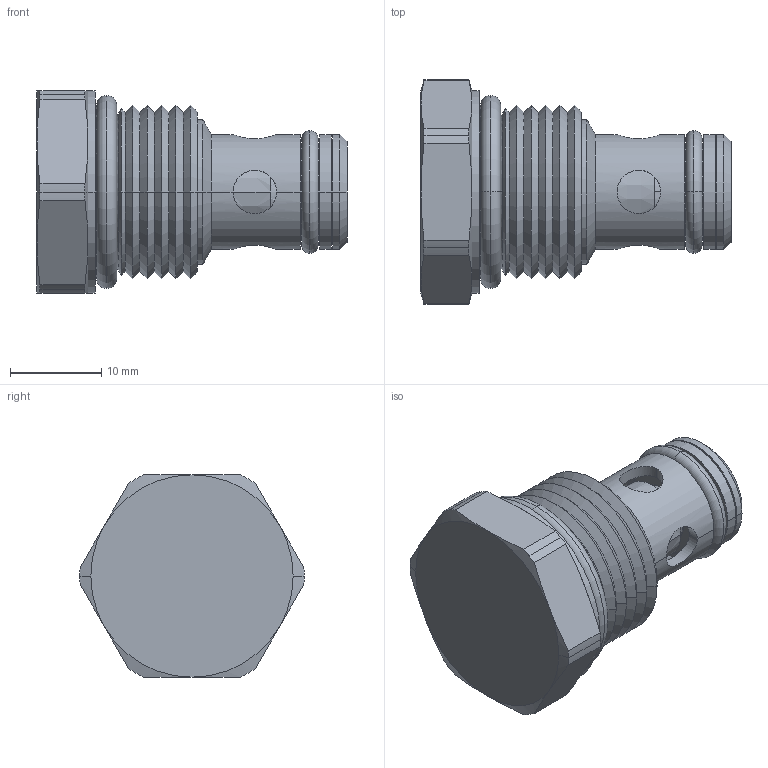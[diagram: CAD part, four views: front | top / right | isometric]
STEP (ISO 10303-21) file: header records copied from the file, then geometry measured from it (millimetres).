
FILE_DESCRIPTION((''),'2;1');
FILE_NAME('U:\Solid model CD\Solid model full\Mechanical\STEP\PBCVS00-3D Full.stp','2008-07-29T09:48:59',('Dan'),(''),'Autodesk Inventor 9','Autodesk Inventor 9','');
FILE_SCHEMA(('AUTOMOTIVE_DESIGN { 1 0 10303 214 1 1 1 1 }'));
Length unit declared in the file: inch
Products named in the file (5): PBCVS00-3D Full; PBCVS00-3D Full1; PBCVS00-3D Full2; PBCVS00-3D Full3; PBCVS00-3D Full4
Assembly tree (4 placements, depth 2):
  PBCVS00-3D Full
    PBCVS00-3D Full1
    PBCVS00-3D Full2
    PBCVS00-3D Full3
    PBCVS00-3D Full4
Bounding box: 34.05 x 24.64 x 22.23 mm (x, y, z)
Volume: 7426.7 mm3; surface area: 4163.9 mm2
Topology: 4 solids, 4 shells, 125 faces, 294 edges, 177 vertices
Faces by surface type: cone 50, cylinder 42, plane 17, torus 10, bspline 4, sphere 2
Entity records: 4124 total; most frequent: CARTESIAN_POINT 1109, DIRECTION 662, ORIENTED_EDGE 588, EDGE_CURVE 294, AXIS2_PLACEMENT_3D 286, VERTEX_POINT 177, CIRCLE 156, EDGE_LOOP 139
